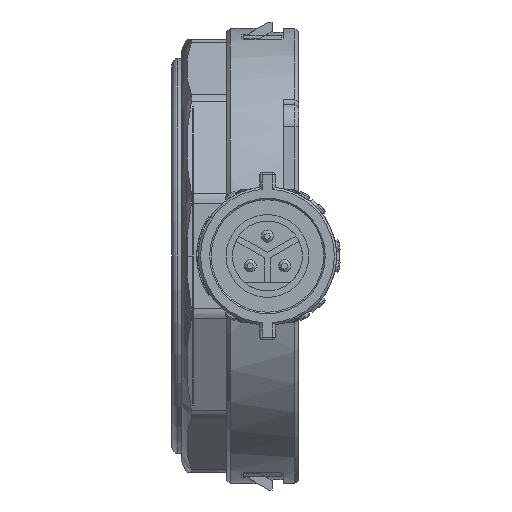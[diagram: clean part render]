
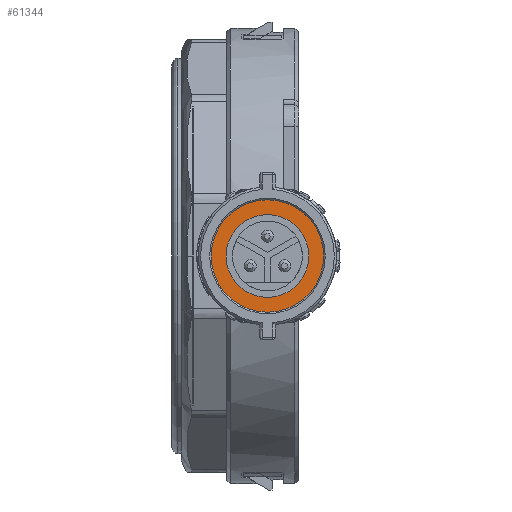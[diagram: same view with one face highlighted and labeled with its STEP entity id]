
A CAD part, left-side view. The second image highlights one B-rep face of the part: STEP entity #61344.
In plain terms, the highlighted planar face has unit normal (-1, 0, 0).
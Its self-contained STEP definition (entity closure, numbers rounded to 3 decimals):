
#734 = CARTESIAN_POINT ( 'NONE',  ( 6.89, 0., 0. ) ) ;
#2497 = EDGE_LOOP ( 'NONE', ( #61384, #14737 ) ) ;
#3591 = VERTEX_POINT ( 'NONE', #56672 ) ;
#4060 = CIRCLE ( 'NONE', #30014, 5.45 ) ;
#4703 = DIRECTION ( 'NONE',  ( -1., 0., 0. ) ) ;
#6064 = CIRCLE ( 'NONE', #64921, 5.45 ) ;
#7439 = EDGE_LOOP ( 'NONE', ( #27985 ) ) ;
#7640 = EDGE_CURVE ( 'NONE', #21676, #21676, #12694, .T. ) ;
#9983 = DIRECTION ( 'NONE',  ( -1., 0., 0. ) ) ;
#12694 = CIRCLE ( 'NONE', #53435, 7.4 ) ;
#14737 = ORIENTED_EDGE ( 'NONE', *, *, #51535, .F. ) ;
#15290 = CARTESIAN_POINT ( 'NONE',  ( 6.89, 0., 0. ) ) ;
#16770 = CARTESIAN_POINT ( 'NONE',  ( 6.89, 0., 0. ) ) ;
#17033 = AXIS2_PLACEMENT_3D ( 'NONE', #15290, #4703, #48221 ) ;
#21676 = VERTEX_POINT ( 'NONE', #43621 ) ;
#27985 = ORIENTED_EDGE ( 'NONE', *, *, #7640, .F. ) ;
#28293 = DIRECTION ( 'NONE',  ( 0., -1., 0. ) ) ;
#30014 = AXIS2_PLACEMENT_3D ( 'NONE', #16770, #38334, #33718 ) ;
#31878 = DIRECTION ( 'NONE',  ( 0., 0., 1. ) ) ;
#33215 = DIRECTION ( 'NONE',  ( 1., 0., 0. ) ) ;
#33718 = DIRECTION ( 'NONE',  ( 0., 0., -1. ) ) ;
#37199 = PLANE ( 'NONE',  #17033 ) ;
#38334 = DIRECTION ( 'NONE',  ( -1., 0., 0. ) ) ;
#42155 = CARTESIAN_POINT ( 'NONE',  ( 6.89, 0., 0. ) ) ;
#43621 = CARTESIAN_POINT ( 'NONE',  ( 6.89, -7.4, 0. ) ) ;
#45023 = VERTEX_POINT ( 'NONE', #64653 ) ;
#47530 = FACE_OUTER_BOUND ( 'NONE', #7439, .T. ) ;
#48221 = DIRECTION ( 'NONE',  ( 0., -1., 0. ) ) ;
#49928 = EDGE_CURVE ( 'NONE', #45023, #3591, #4060, .T. ) ;
#51535 = EDGE_CURVE ( 'NONE', #3591, #45023, #6064, .T. ) ;
#53435 = AXIS2_PLACEMENT_3D ( 'NONE', #734, #33215, #28293 ) ;
#56672 = CARTESIAN_POINT ( 'NONE',  ( 6.89, 0., 5.45 ) ) ;
#61344 = ADVANCED_FACE ( 'NONE', ( #47530, #69418 ), #37199, .T. ) ;
#61384 = ORIENTED_EDGE ( 'NONE', *, *, #49928, .F. ) ;
#64653 = CARTESIAN_POINT ( 'NONE',  ( 6.89, 0., -5.45 ) ) ;
#64921 = AXIS2_PLACEMENT_3D ( 'NONE', #42155, #9983, #31878 ) ;
#69418 = FACE_BOUND ( 'NONE', #2497, .T. ) ;
